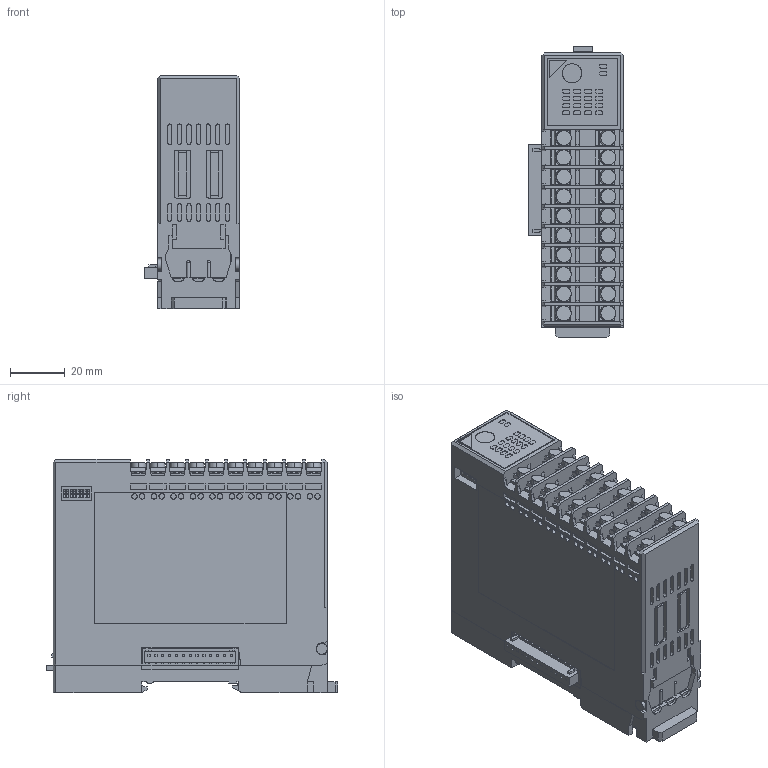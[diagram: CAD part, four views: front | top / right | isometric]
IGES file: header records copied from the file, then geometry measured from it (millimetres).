
Start section: SolidWorks IGES file using analytic representation for surfaces
Bounding box: 34.6 x 106.3 x 85.1 mm (x, y, z)
Surface area: 50819.6 mm2 (no closed solid volume)
Topology: 0 solids, 0 shells, 2052 faces, 17884 edges, 17882 vertices
Faces by surface type: bspline 1609, revolution 443
